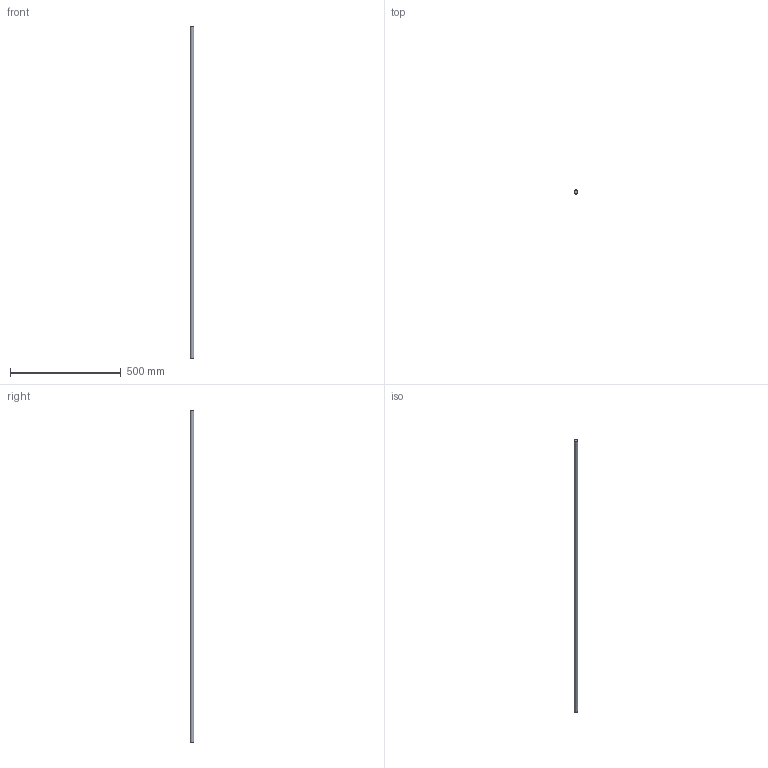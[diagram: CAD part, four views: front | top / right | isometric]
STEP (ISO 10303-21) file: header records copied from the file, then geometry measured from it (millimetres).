
FILE_DESCRIPTION(/* description */ (''),/* implementation_level */ '2;1');
FILE_NAME(/* name */ 'C:\Users\David\Desktop\stepFiles\Profilfuehrung\WF16x1500.stp',/* time_stamp */ '2018-06-24T15:46:56+02:00',/* author */ ('David'),/* organization */ (''),/* preprocessor_version */ 'ST-DEVELOPER v17',/* originating_system */ 'Autodesk Inventor 2019',/* authorisation */ '');
FILE_SCHEMA (('AUTOMOTIVE_DESIGN { 1 0 10303 214 3 1 1 }'));
Length unit declared in the file: millimetre
Products named in the file (1): Wellenfuehrung
Bounding box: 16 x 16 x 1500 mm (x, y, z)
Volume: 301592.9 mm3; surface area: 75800.3 mm2
Topology: 1 solids, 1 shells, 3 faces, 3 edges, 2 vertices
Faces by surface type: plane 2, cylinder 1
Full cylindrical faces by diameter (mm): 16 x1
Entity records: 98 total; most frequent: DIRECTION 13, CARTESIAN_POINT 9, ORIENTED_EDGE 6, AXIS2_PLACEMENT_3D 6, FACE_OUTER_BOUND 3, EDGE_LOOP 3, EDGE_CURVE 3, ADVANCED_FACE 3
